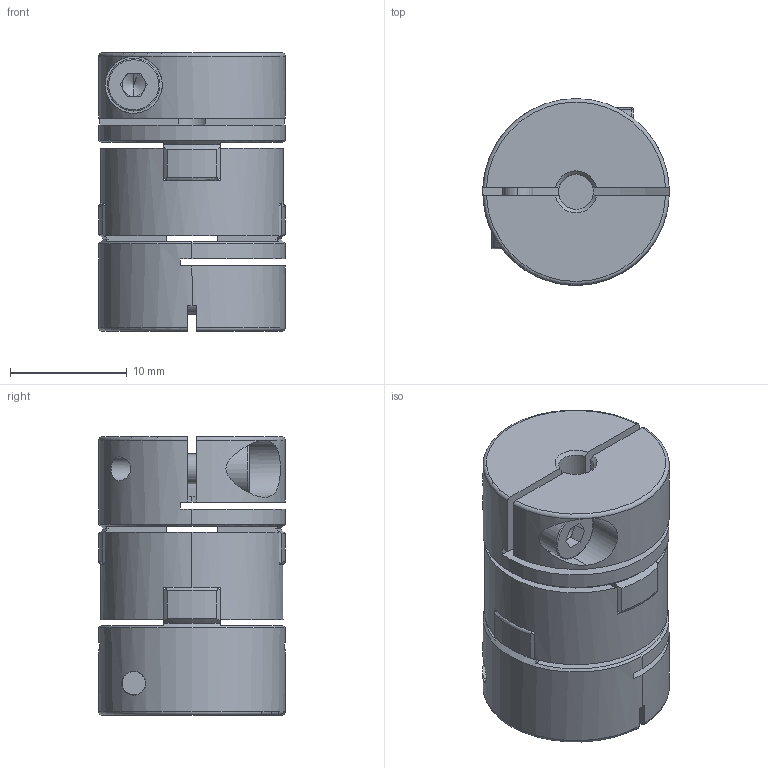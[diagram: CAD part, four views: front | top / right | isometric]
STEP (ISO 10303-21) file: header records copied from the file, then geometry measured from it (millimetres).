
FILE_DESCRIPTION (( 'STEP AP203' ), '1' );
FILE_NAME ('SOH-16C-3X6_203.STEP', '2013-03-13T00:10:03', ( 'Z77' ), ( '' ), 'SwSTEP 2.0', 'SolidWorks 2012', '' );
FILE_SCHEMA (( 'CONFIG_CONTROL_DESIGN' ));
Length unit declared in the file: millimetre
Products named in the file (1): SOH-16C-3X6_203
Bounding box: 16 x 16 x 23.9 mm (x, y, z)
Volume: 3799.6 mm3; surface area: 3398.6 mm2
Topology: 1 solids, 1 shells, 210 faces, 595 edges, 371 vertices
Faces by surface type: plane 96, cylinder 65, cone 25, torus 24
Entity records: 7247 total; most frequent: CARTESIAN_POINT 1754, ORIENTED_EDGE 1174, DIRECTION 1122, EDGE_CURVE 587, AXIS2_PLACEMENT_3D 419, VERTEX_POINT 367, VECTOR 284, LINE 284
